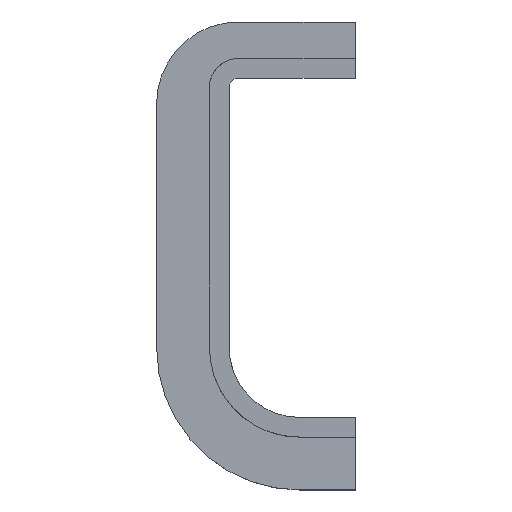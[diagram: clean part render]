
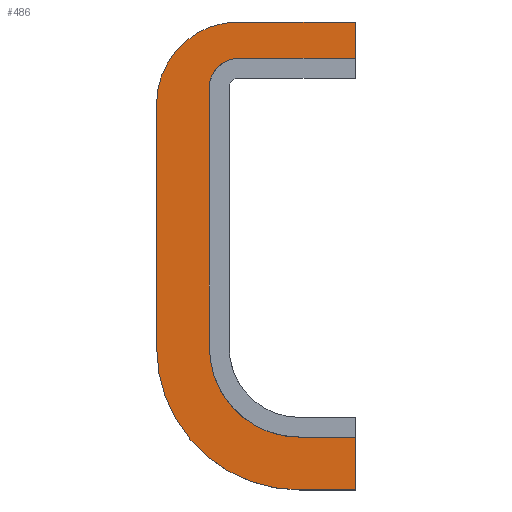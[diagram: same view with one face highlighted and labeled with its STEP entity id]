
A CAD part, top view. The second image highlights one B-rep face of the part: STEP entity #486.
In plain terms, the highlighted planar face has unit normal (0, 0, 1).
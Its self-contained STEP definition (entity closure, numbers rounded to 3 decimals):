
#23=PLANE('',#534);
#42=FACE_OUTER_BOUND('',#68,.T.);
#68=EDGE_LOOP('',(#337,#338,#339,#340,#341,#342,#343,#344,#345,#346,#347,
#348));
#95=LINE('',#727,#151);
#96=LINE('',#731,#152);
#97=LINE('',#733,#153);
#98=LINE('',#735,#154);
#99=LINE('',#739,#155);
#100=LINE('',#743,#156);
#101=LINE('',#745,#157);
#102=LINE('',#746,#158);
#151=VECTOR('',#585,10.);
#152=VECTOR('',#588,10.);
#153=VECTOR('',#589,10.);
#154=VECTOR('',#590,10.);
#155=VECTOR('',#593,10.);
#156=VECTOR('',#596,10.);
#157=VECTOR('',#597,10.);
#158=VECTOR('',#598,10.);
#205=CIRCLE('',#532,17.5);
#207=CIRCLE('',#535,30.5);
#208=CIRCLE('',#536,19.2);
#209=CIRCLE('',#537,6.2);
#213=VERTEX_POINT('',#717);
#214=VERTEX_POINT('',#718);
#217=VERTEX_POINT('',#726);
#218=VERTEX_POINT('',#728);
#219=VERTEX_POINT('',#730);
#220=VERTEX_POINT('',#732);
#221=VERTEX_POINT('',#734);
#222=VERTEX_POINT('',#736);
#223=VERTEX_POINT('',#738);
#224=VERTEX_POINT('',#740);
#225=VERTEX_POINT('',#742);
#226=VERTEX_POINT('',#744);
#261=EDGE_CURVE('',#213,#214,#205,.T.);
#265=EDGE_CURVE('',#213,#217,#95,.T.);
#266=EDGE_CURVE('',#217,#218,#207,.T.);
#267=EDGE_CURVE('',#218,#219,#96,.T.);
#268=EDGE_CURVE('',#220,#219,#97,.T.);
#269=EDGE_CURVE('',#221,#220,#98,.T.);
#270=EDGE_CURVE('',#222,#221,#208,.T.);
#271=EDGE_CURVE('',#223,#222,#99,.T.);
#272=EDGE_CURVE('',#224,#223,#209,.T.);
#273=EDGE_CURVE('',#225,#224,#100,.T.);
#274=EDGE_CURVE('',#226,#225,#101,.T.);
#275=EDGE_CURVE('',#226,#214,#102,.T.);
#337=ORIENTED_EDGE('',*,*,#261,.F.);
#338=ORIENTED_EDGE('',*,*,#265,.T.);
#339=ORIENTED_EDGE('',*,*,#266,.T.);
#340=ORIENTED_EDGE('',*,*,#267,.T.);
#341=ORIENTED_EDGE('',*,*,#268,.F.);
#342=ORIENTED_EDGE('',*,*,#269,.F.);
#343=ORIENTED_EDGE('',*,*,#270,.F.);
#344=ORIENTED_EDGE('',*,*,#271,.F.);
#345=ORIENTED_EDGE('',*,*,#272,.F.);
#346=ORIENTED_EDGE('',*,*,#273,.F.);
#347=ORIENTED_EDGE('',*,*,#274,.F.);
#348=ORIENTED_EDGE('',*,*,#275,.T.);
#486=ADVANCED_FACE('',(#42),#23,.T.);
#532=AXIS2_PLACEMENT_3D('',#719,#577,#578);
#534=AXIS2_PLACEMENT_3D('',#725,#583,#584);
#535=AXIS2_PLACEMENT_3D('',#729,#586,#587);
#536=AXIS2_PLACEMENT_3D('',#737,#591,#592);
#537=AXIS2_PLACEMENT_3D('',#741,#594,#595);
#577=DIRECTION('center_axis',(0.,0.,-1.));
#578=DIRECTION('ref_axis',(-0.707,0.707,0.));
#583=DIRECTION('center_axis',(0.,0.,1.));
#584=DIRECTION('ref_axis',(0.,1.,0.));
#585=DIRECTION('',(0.,-1.,0.));
#586=DIRECTION('center_axis',(0.,0.,1.));
#587=DIRECTION('ref_axis',(-1.,0.,0.));
#588=DIRECTION('',(1.,0.,0.));
#589=DIRECTION('',(0.,-1.,0.));
#590=DIRECTION('',(1.,0.,0.));
#591=DIRECTION('center_axis',(0.,0.,1.));
#592=DIRECTION('ref_axis',(-1.,0.,0.));
#593=DIRECTION('',(0.,-1.,0.));
#594=DIRECTION('center_axis',(0.,0.,1.));
#595=DIRECTION('ref_axis',(0.,1.,0.));
#596=DIRECTION('',(-1.,0.,0.));
#597=DIRECTION('',(0.,-1.,0.));
#598=DIRECTION('',(-1.,0.,0.));
#717=CARTESIAN_POINT('',(-42.5,-5.5,2.1));
#718=CARTESIAN_POINT('',(-25.,12.,2.1));
#719=CARTESIAN_POINT('Origin',(-25.,-5.5,2.1));
#725=CARTESIAN_POINT('Origin',(0.,4.2,2.1));
#726=CARTESIAN_POINT('',(-42.5,-57.5,2.1));
#727=CARTESIAN_POINT('',(-42.5,-2.,2.1));
#728=CARTESIAN_POINT('',(-12.,-88.,2.1));
#729=CARTESIAN_POINT('Origin',(-12.,-57.5,2.1));
#730=CARTESIAN_POINT('',(0.,-88.,2.1));
#731=CARTESIAN_POINT('',(-12.,-88.,2.1));
#732=CARTESIAN_POINT('',(0.,-76.7,2.1));
#733=CARTESIAN_POINT('',(0.,-88.,2.1));
#734=CARTESIAN_POINT('',(-12.,-76.7,2.1));
#735=CARTESIAN_POINT('',(-12.,-76.7,2.1));
#736=CARTESIAN_POINT('',(-31.2,-57.5,2.1));
#737=CARTESIAN_POINT('Origin',(-12.,-57.5,2.1));
#738=CARTESIAN_POINT('',(-31.2,-2.,2.1));
#739=CARTESIAN_POINT('',(-31.2,-2.,2.1));
#740=CARTESIAN_POINT('',(-25.,4.2,2.1));
#741=CARTESIAN_POINT('Origin',(-25.,-2.,2.1));
#742=CARTESIAN_POINT('',(0.,4.2,2.1));
#743=CARTESIAN_POINT('',(0.,4.2,2.1));
#744=CARTESIAN_POINT('',(0.,12.,2.1));
#745=CARTESIAN_POINT('',(0.,15.5,2.1));
#746=CARTESIAN_POINT('',(0.,12.,2.1));
